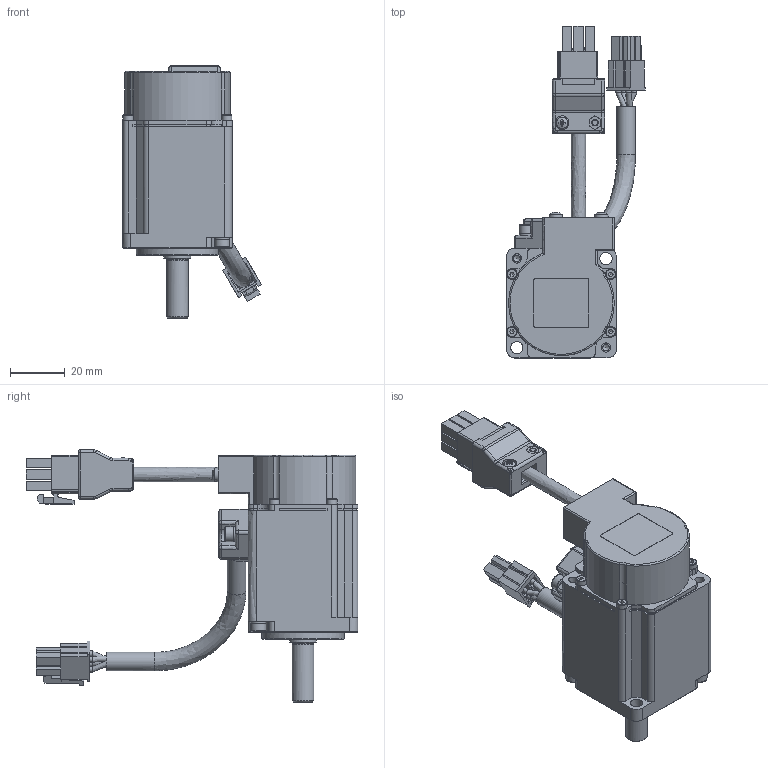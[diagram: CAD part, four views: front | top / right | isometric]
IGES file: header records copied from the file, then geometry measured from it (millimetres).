
Global section: file name: SME-L005; native system: Autodesk Inventor 2014; preprocessor: unknown; author: Mejust; date: 20161020.141253; units: millimetre
Bounding box: 50.65 x 121 x 92 mm (x, y, z)
Volume: 45579.8 mm3; surface area: 42855.4 mm2
Topology: 11 solids, 39 shells, 1491 faces, 3957 edges, 2600 vertices
Faces by surface type: bspline 1491
